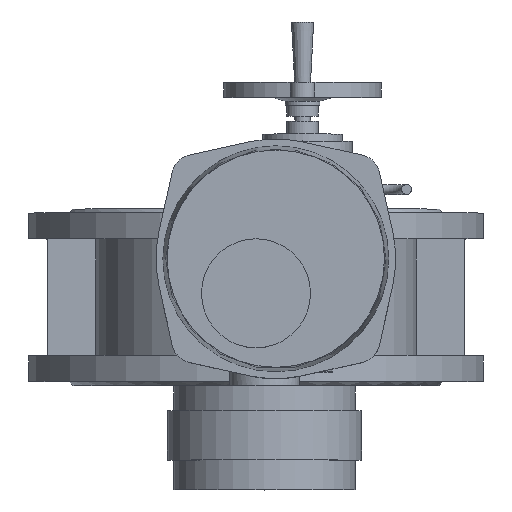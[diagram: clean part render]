
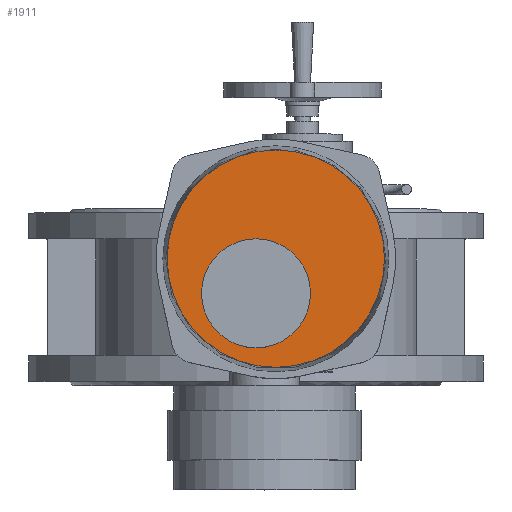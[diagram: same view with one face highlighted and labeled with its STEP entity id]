
A CAD part, top view. The second image highlights one B-rep face of the part: STEP entity #1911.
In plain terms, the highlighted planar face has unit normal (0, 0, 1).
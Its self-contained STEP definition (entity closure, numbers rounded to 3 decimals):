
#1911=ADVANCED_FACE('',(#3994,#3996),#3998,.T.);
#3994=FACE_BOUND('',#3995,.T.);
#3995=EDGE_LOOP('',(#5524));
#3996=FACE_BOUND('',#3997,.T.);
#3997=EDGE_LOOP('',(#5525));
#3998=PLANE('',#3999);
#3999=AXIS2_PLACEMENT_3D('',#4000,#4001,#4002);
#4000=CARTESIAN_POINT('',(20.,38.,593.));
#4001=DIRECTION('',(0.,0.,1.));
#4002=DIRECTION('',(-1.,0.,0.));
#5524=ORIENTED_EDGE('',*,*,#6271,.T.);
#5525=ORIENTED_EDGE('',*,*,#6293,.F.);
#6271=EDGE_CURVE('',#7315,#7315,#7316,.T.);
#6293=EDGE_CURVE('',#7343,#7343,#7344,.T.);
#7315=VERTEX_POINT('',#10840);
#7316=CIRCLE('',#10841,109.703);
#7343=VERTEX_POINT('',#10934);
#7344=CIRCLE('',#10935,55.);
#10840=CARTESIAN_POINT('',(-89.703,38.,593.));
#10841=AXIS2_PLACEMENT_3D('',#10842,#10843,#10844);
#10842=CARTESIAN_POINT('',(20.,38.,593.));
#10843=DIRECTION('',(0.,0.,1.));
#10844=DIRECTION('',(-1.,0.,0.));
#10934=CARTESIAN_POINT('',(-55.,3.,593.));
#10935=AXIS2_PLACEMENT_3D('',#10936,#10937,#10938);
#10936=CARTESIAN_POINT('',(0.,3.,593.));
#10937=DIRECTION('',(0.,0.,1.));
#10938=DIRECTION('',(-1.,0.,0.));
